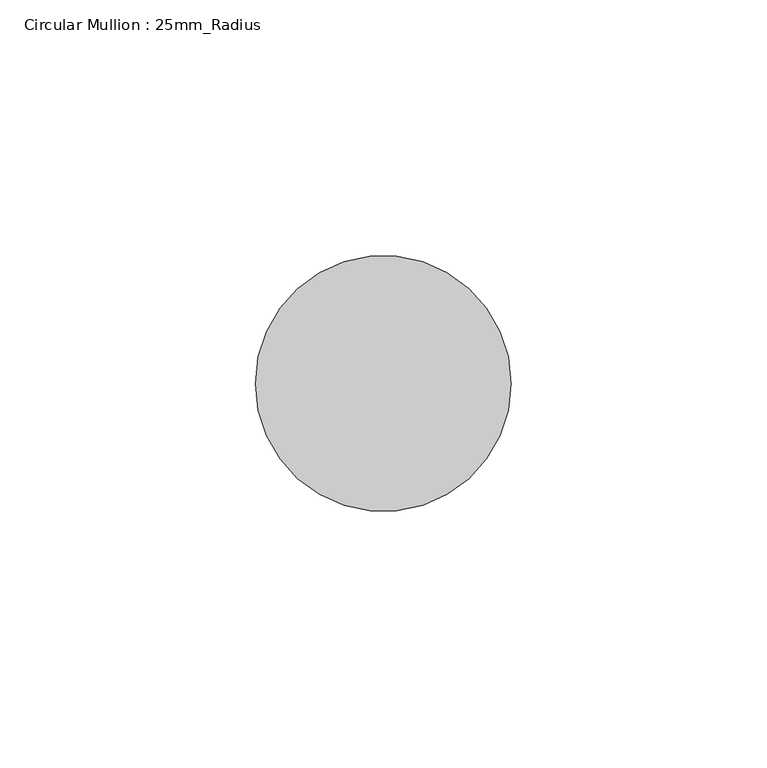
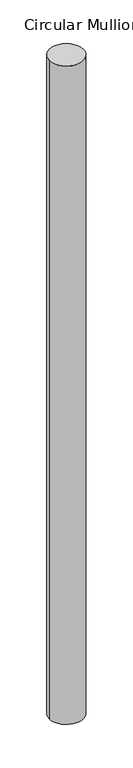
"""IFC4 building model written with IfcOpenShell, lengths in millimetres: member geometry, Circular Mullion : 25mm_Radius."""

from ifc_helpers import new_model, si_unit, point, frame, origin, origin_2d, place, context, project, spatial, circle_curve, trimmed, segment, composite_curve, outline, extrude, source, transform, mapped, element, save


def circular_mullion_25mm_radius_74b99b17(model_context):
    return source(origin(), model_context, "Body", "SweptSolid", [
        extrude(outline(composite_curve([segment(trimmed(circle_curve(origin_2d(), 25.0), [point((25.0, 0.0))], [point((-25.0, 0.0))], False, "CARTESIAN"), True, "CONTINUOUS"), segment(trimmed(circle_curve(origin_2d(), 25.0), [point((-25.0, 0.0))], [point((25.0, 0.0))], False, "CARTESIAN"), True, "CONTINUOUS")], self_intersect=False)), frame((0.0, 0.0, -1020.0), z_axis=(0.0, 0.0, 1.0), x_axis=(1.0, 0.0, 0.0)), (0.0, 0.0, 1.0), 1020.0),
    ])


if __name__ == "__main__":
    model = new_model("IFC4")
    model_context = context("Model", 3, world=origin())
    ifc_project = project(units=[si_unit("LENGTHUNIT", "METRE", prefix="MILLI")], contexts=[model_context])
    site = spatial("IfcSite", under=ifc_project)
    building = spatial("IfcBuilding", under=site)
    placement = place(None, origin())
    circular_mullion_25mm_radius_shape = circular_mullion_25mm_radius_74b99b17(model_context)
    element("IfcMember", 1, ObjectType="Circular Mullion : 25mm_Radius", at=placement, inside=building, context=model_context, shape_type="MappedRepresentation", body=[
        mapped(circular_mullion_25mm_radius_shape, transform((0.0, 0.0, 0.0), x_axis=(1.0, 0.0, 0.0), y_axis=(0.0, 1.0, 0.0), z_axis=(0.0, 0.0, 1.0))),
    ])
    save(model, "model.ifc")
